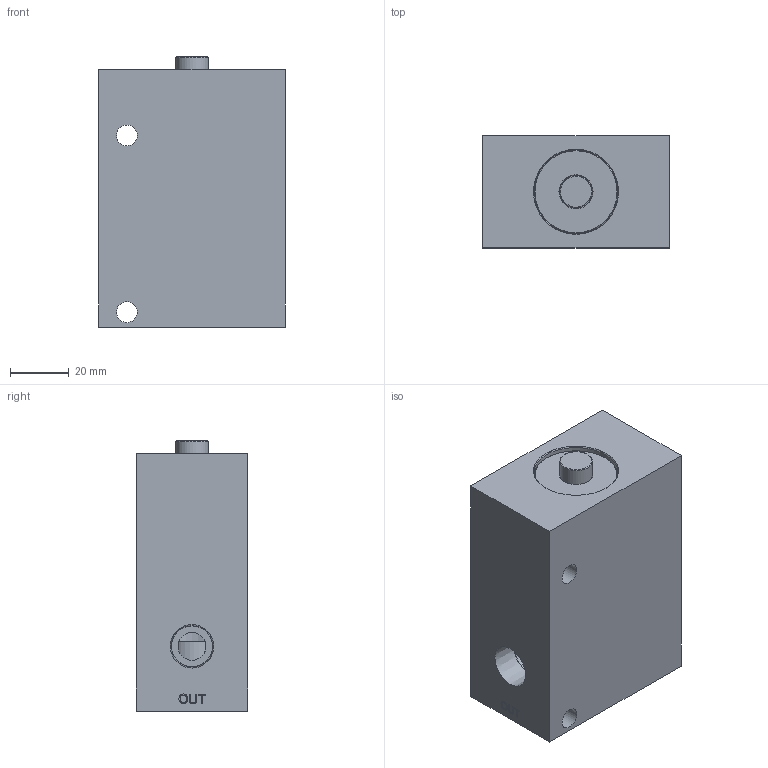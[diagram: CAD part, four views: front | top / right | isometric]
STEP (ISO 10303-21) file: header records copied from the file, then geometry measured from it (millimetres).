
FILE_DESCRIPTION(/* description */ (''),/* implementation_level */ '2;1');
FILE_NAME(/* name */ 'L:\ALADCO\Advertising\3D Content\Valves\Step Files - 2014-11-19 thru Present\40380X.stp',/* time_stamp */ '2014-11-19T16:21:43-06:00',/* author */ ('dmatz'),/* organization */ (''),/* preprocessor_version */ 'ST-DEVELOPER v15.2',/* originating_system */ 'Autodesk Inventor 2014',/* authorisation */ '');
FILE_SCHEMA (('AUTOMOTIVE_DESIGN { 1 0 10303 214 3 1 1 }'));
Length unit declared in the file: inch
Products named in the file (5): 553800NPTF; 311021; 311015; 301076; 503801
Bounding box: 63.5 x 38.1 x 92.2 mm (x, y, z)
Volume: 174477.6 mm3; surface area: 40464.7 mm2
Topology: 4 solids, 4 shells, 185 faces, 424 edges, 277 vertices
Faces by surface type: plane 99, cylinder 28, bspline 26, cone 18, torus 14
Full cylindrical faces by diameter (mm): 1.499 x1, 6.629 x1, 7.112 x2, 9.144 x1, 9.525 x2, 10.719 x1, 11.049 x2, 11.1 x1, 12.7 x1, 13.081 x1, 13.894 x2, 15.081 x1, 17.577 x1, 22.149 x1, 24.409 x1, 24.435 x1, 25.4 x2, 28.524 x4, 28.575 x2
Entity records: 5367 total; most frequent: CARTESIAN_POINT 1369, DIRECTION 710, ORIENTED_EDGE 684, EDGE_CURVE 342, EDGE_LOOP 292, VERTEX_POINT 258, AXIS2_PLACEMENT_3D 255, LINE 200
